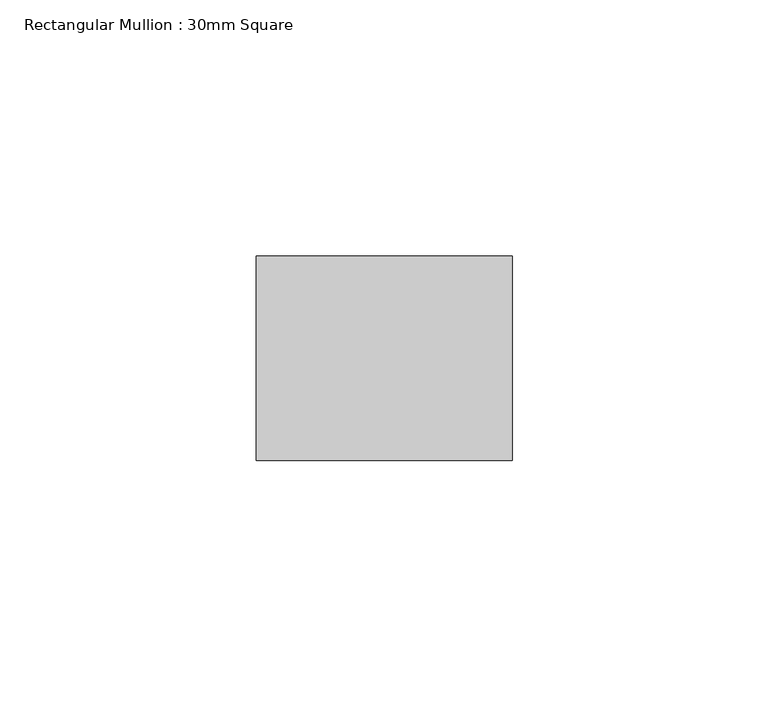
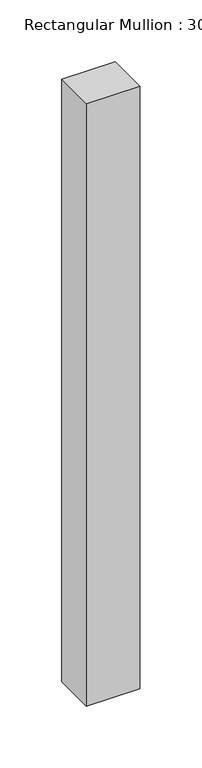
"""IFC4 building model written with IfcOpenShell, lengths in millimetres: member geometry, Rectangular Mullion : 30mm Square."""

from ifc_helpers import new_model, si_unit, frame, origin, place, context, project, spatial, polyline, outline, extrude, source, transform, mapped, element, save


def rectangular_mullion_30mm_square_a0f524ba(model_context):
    return source(origin(), model_context, "Body", "SweptSolid", [
        extrude(outline(polyline([(25.0, 20.0), (25.0, -20.0), (-25.0, -20.0), (-25.0, 20.0), (25.0, 20.0)])), frame((0.0, 0.0, -595.9351012), z_axis=(0.0, 0.0, 1.0), x_axis=(1.0, 0.0, 0.0)), (0.0, 0.0, 1.0), 595.9351012),
    ])


if __name__ == "__main__":
    model = new_model("IFC4")
    model_context = context("Model", 3, world=origin())
    ifc_project = project(units=[si_unit("LENGTHUNIT", "METRE", prefix="MILLI")], contexts=[model_context])
    site = spatial("IfcSite", under=ifc_project)
    building = spatial("IfcBuilding", under=site)
    placement = place(None, origin())
    rectangular_mullion_30mm_square_shape = rectangular_mullion_30mm_square_a0f524ba(model_context)
    element("IfcMember", 1, ObjectType="Rectangular Mullion : 30mm Square", at=placement, inside=building, context=model_context, shape_type="MappedRepresentation", body=[
        mapped(rectangular_mullion_30mm_square_shape, transform((0.0, 0.0, 0.0), x_axis=(1.0, 0.0, 0.0), y_axis=(0.0, 1.0, 0.0), z_axis=(0.0, 0.0, 1.0))),
    ])
    save(model, "model.ifc")
